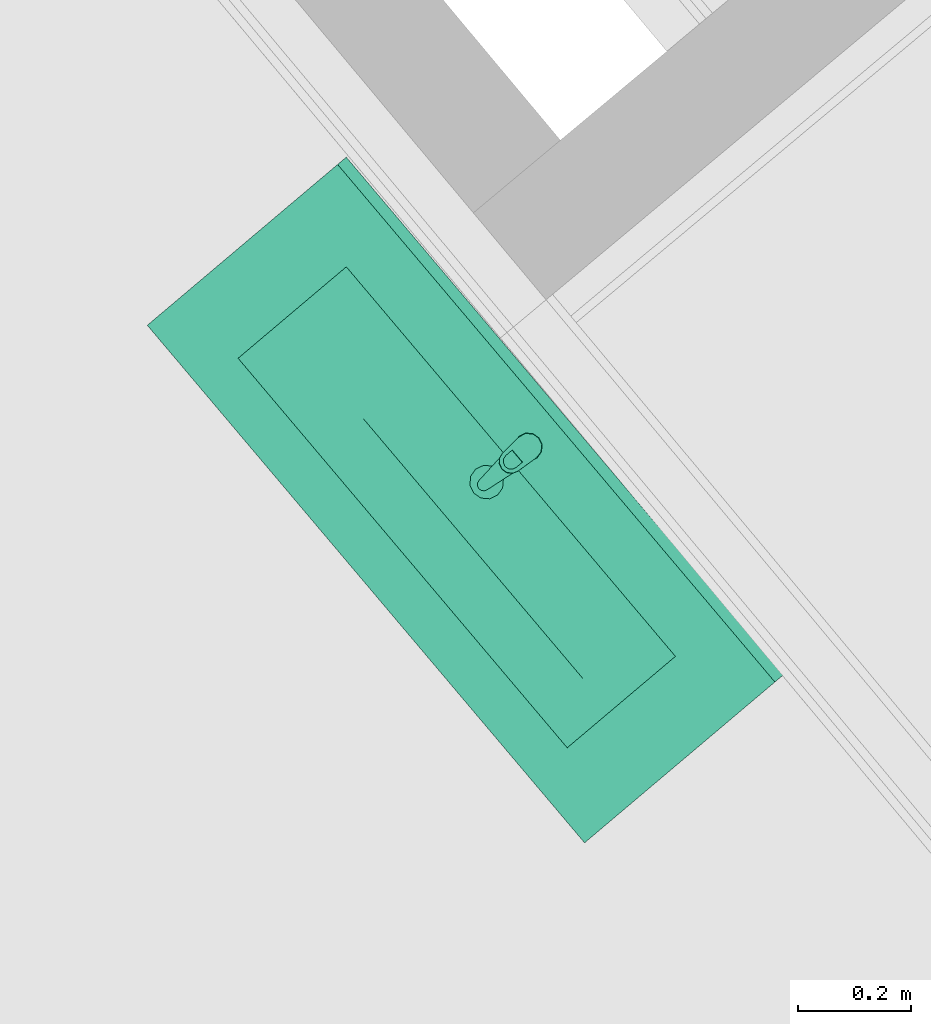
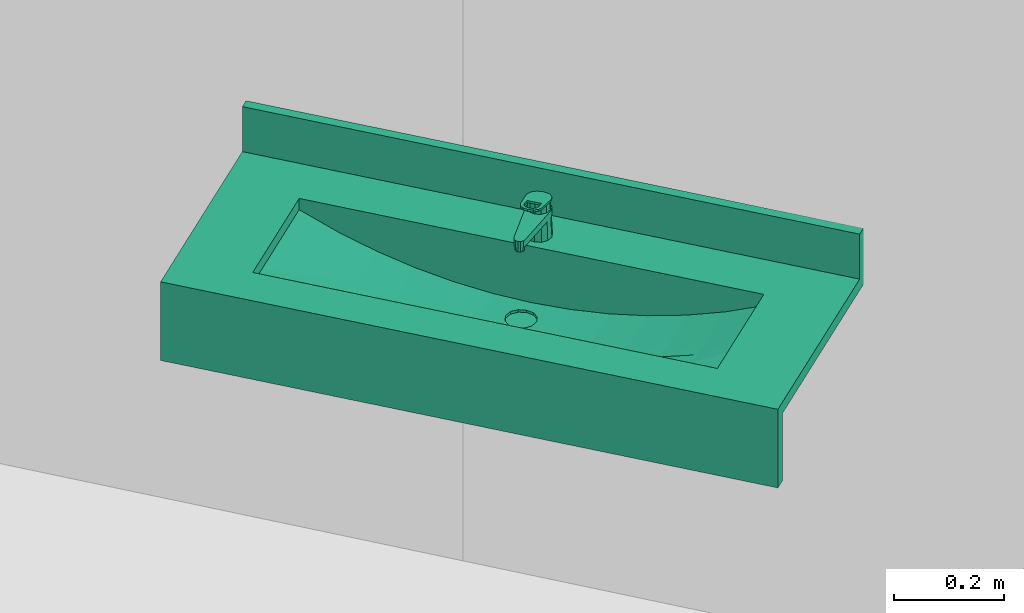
# One storey, part 68 of 75: 1 sanitary terminal.
"""IFC4 building model written with IfcOpenShell, lengths in metres."""

from ifc_helpers import new_model, entity, si_unit, converted_unit, derived_unit, direction, frame, origin_with_axes, place, context, subcontext, project, spatial, polygons, source, transform, mapped, type_object, element, save


model = new_model("IFC4")

# Units and contexts
model_context = context("Model", 3, precision=1e-05, world=origin_with_axes(), true_north=direction((0.0, 1.0)))
body_context = subcontext(model_context, "Body", "Model", "MODEL_VIEW")
ifc_project = project(units=[si_unit("LENGTHUNIT", "METRE"), si_unit("AREAUNIT", "SQUARE_METRE"), si_unit("VOLUMEUNIT", "CUBIC_METRE"), converted_unit("PLANEANGLEUNIT", "DEGREE", entity("IfcPlaneAngleMeasure", 0.0174532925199), si_unit("PLANEANGLEUNIT", "RADIAN"), dimensions=[0, 0, 0, 0, 0, 0, 0]), converted_unit("TIMEUNIT", "Year", entity("IfcTimeMeasure", 31556926.0), si_unit("TIMEUNIT", "SECOND"), dimensions=[0, 0, 1, 0, 0, 0, 0]), si_unit("MASSUNIT", "GRAM", prefix="KILO"), si_unit("THERMODYNAMICTEMPERATUREUNIT", "DEGREE_CELSIUS"), si_unit("LUMINOUSINTENSITYUNIT", "LUMEN"), si_unit("ENERGYUNIT", "JOULE", prefix="MEGA"), derived_unit("THERMALCONDUCTANCEUNIT", [(si_unit("POWERUNIT", "WATT"), 1), (si_unit("LENGTHUNIT", "METRE"), -1), (si_unit("THERMODYNAMICTEMPERATUREUNIT", "KELVIN"), -1)]), derived_unit("SPECIFICHEATCAPACITYUNIT", [(si_unit("ENERGYUNIT", "JOULE"), 1), (si_unit("MASSUNIT", "GRAM", prefix="KILO"), -1), (si_unit("THERMODYNAMICTEMPERATUREUNIT", "KELVIN"), -1)]), derived_unit("MASSDENSITYUNIT", [(si_unit("MASSUNIT", "GRAM", prefix="KILO"), 1), (si_unit("VOLUMEUNIT", "CUBIC_METRE"), -1)])], contexts=[model_context])

# Site, building, storey, space
site_placement = place(None, frame((-0.00153261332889, -0.00661245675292, 0.0), z_axis=(0.0, 0.0, 1.0), x_axis=(1.0, 0.0, 0.0)))
site = spatial("IfcSite", under=ifc_project, at=site_placement, Name="Gelände", CompositionType="ELEMENT")
building_placement = place(site_placement, origin_with_axes())
building = spatial("IfcBuilding", under=site, at=building_placement, Name="Gebäude", CompositionType="ELEMENT")
storey_placement = place(building_placement, frame((0.0, 0.0, -0.22), z_axis=(0.0, 0.0, 1.0), x_axis=(1.0, 0.0, 0.0)))
storey = spatial("IfcBuildingStorey", under=building, at=storey_placement, Name="EG", CompositionType="ELEMENT", Elevation=-0.22)
space_placement = place(storey_placement, frame((-1.0947353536, 21.1038328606, 0.22), z_axis=(0.0, 0.0, 1.0), x_axis=(0.641209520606, -0.767365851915, 0.0)))
space = spatial("IfcSpace", under=storey, at=space_placement, CompositionType="ELEMENT", PredefinedType="NOTDEFINED")

# Sanitary terminal
sanitary_terminal_type = type_object("IfcSanitaryTerminalType", Name="Waschbecken mehrfach 26", PredefinedType="NOTDEFINED")
shared_shape = source(origin_with_axes(), body_context, "Body", "Tessellation", [
    polygons([(-0.597906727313, 0.0, 0.875), (0.597906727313, 0.0, 0.875), (0.597906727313, -0.459810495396, 0.875), (-0.597906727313, -0.459810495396, 0.875), (-0.45, -0.374905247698, 0.875), (0.45, -0.374905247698, 0.875), (0.45, -0.124905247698, 0.875), (-0.45, -0.124905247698, 0.875), (-0.597906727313, 0.0, 0.9), (0.597906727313, 0.0, 0.9), (0.597906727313, -0.459810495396, 0.9), (-0.597906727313, -0.459810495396, 0.9), (-0.45, -0.374905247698, 0.9), (0.45, -0.374905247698, 0.9), (0.45, -0.124905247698, 0.9), (-0.45, -0.124905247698, 0.9)], [[[1, 2, 3, 4], [5, 6, 7, 8]], [[1, 9, 10, 2]], [[2, 10, 11, 3]], [[3, 11, 12, 4]], [[4, 12, 9, 1]], [[13, 14, 6, 5]], [[14, 15, 7, 6]], [[15, 16, 8, 7]], [[16, 13, 5, 8]], [[11, 10, 9, 12], [13, 16, 15, 14]]], closed=True),
    polygons([(-0.597906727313, -0.02, 0.9), (0.597906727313, -0.02, 0.9), (0.597906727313, -0.02, 1.0), (-0.597906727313, -0.02, 1.0), (-0.597906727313, 0.0, 0.9), (0.597906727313, 0.0, 0.9), (0.597906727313, 0.0, 1.0), (-0.597906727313, 0.0, 1.0)], [[[1, 2, 3, 4]], [[1, 5, 6, 2]], [[2, 6, 7, 3]], [[4, 3, 7, 8]], [[5, 1, 4, 8]], [[6, 5, 8, 7]]], closed=True),
    polygons([(-0.597906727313, -0.459810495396, 0.725), (0.597906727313, -0.459810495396, 0.725), (0.597906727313, -0.459810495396, 0.875), (-0.597906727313, -0.459810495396, 0.875), (-0.597906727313, -0.434810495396, 0.725), (0.597906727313, -0.434810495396, 0.725), (0.597906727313, -0.434810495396, 0.875), (-0.597906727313, -0.434810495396, 0.875)], [[[1, 2, 3, 4]], [[1, 5, 6, 2]], [[2, 6, 7, 3]], [[4, 3, 7, 8]], [[5, 1, 4, 8]], [[6, 5, 8, 7]]], closed=True),
    polygons([(0.0, -0.210896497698, 0.775), (-0.015, -0.206877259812, 0.775530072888), (-0.0259807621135, -0.195896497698, 0.775918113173), (-0.03, -0.180896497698, 0.776060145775), (-0.0283946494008, -0.174905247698, 0.776003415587), (-0.075, -0.174905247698, 0.777650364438), (-0.075, -0.224905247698, 0.777650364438), (0.0, -0.224905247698, 0.775), (-0.015, -0.154915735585, 0.775530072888), (0.0, -0.150896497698, 0.775), (0.0, -0.124905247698, 0.775), (-0.075, -0.124905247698, 0.777650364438), (-0.0259807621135, -0.165896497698, 0.775918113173), (-0.15, -0.174905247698, 0.785641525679), (-0.15, -0.224905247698, 0.785641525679), (-0.075, -0.274905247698, 0.787304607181), (0.075, -0.174905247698, 0.777650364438), (0.0283946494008, -0.174905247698, 0.776003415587), (0.03, -0.180896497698, 0.776060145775), (0.0259807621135, -0.195896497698, 0.775918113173), (0.015, -0.206877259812, 0.775530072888), (0.075, -0.224905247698, 0.777650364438), (0.015, -0.154915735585, 0.775530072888), (0.0259807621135, -0.165896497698, 0.775918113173), (0.075, -0.124905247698, 0.777650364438), (0.225, -0.124905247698, 0.799096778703), (0.3, -0.124905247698, 0.818232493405), (0.375, -0.124905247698, 0.843376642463), (0.45, -0.124905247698, 0.875), (-0.45, -0.124905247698, 0.875), (-0.375, -0.124905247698, 0.843376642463), (-0.3, -0.124905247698, 0.818232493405), (-0.225, -0.124905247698, 0.799096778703), (-0.15, -0.124905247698, 0.785641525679), (0.15, -0.124905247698, 0.785641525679), (-0.225, -0.174905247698, 0.799096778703), (-0.225, -0.224905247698, 0.799096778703), (-0.15, -0.274905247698, 0.794561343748), (0.0, -0.274905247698, 0.784895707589), (0.15, -0.224905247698, 0.785641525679), (0.15, -0.174905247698, 0.785641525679), (0.3, -0.174905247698, 0.818232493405), (0.225, -0.174905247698, 0.799096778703), (0.375, -0.174905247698, 0.843376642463), (0.45, -0.174905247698, 0.875), (-0.375, -0.174905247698, 0.843376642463), (-0.45, -0.174905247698, 0.875), (-0.3, -0.174905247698, 0.818232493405), (-0.3, -0.224905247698, 0.818232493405), (-0.225, -0.274905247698, 0.80675793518), (-0.075, -0.324905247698, 0.828130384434), (-0.15, -0.324905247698, 0.832107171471), (0.075, -0.274905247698, 0.787304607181), (0.225, -0.224905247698, 0.799096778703), (0.3, -0.224905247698, 0.818232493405), (0.375, -0.224905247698, 0.843376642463), (0.45, -0.224905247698, 0.875), (0.45, -0.274905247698, 0.875), (0.45, -0.324905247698, 0.875), (0.45, -0.374905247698, 0.875), (-0.45, -0.274905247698, 0.875), (-0.45, -0.224905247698, 0.875), (-0.45, -0.374905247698, 0.875), (-0.45, -0.324905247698, 0.875), (-0.375, -0.224905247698, 0.843376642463), (-0.3, -0.274905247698, 0.824054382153), (-0.225, -0.324905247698, 0.838751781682), (0.0, -0.324905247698, 0.826806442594), (0.15, -0.274905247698, 0.794561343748), (0.225, -0.274905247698, 0.80675793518), (0.3, -0.274905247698, 0.824054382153), (0.375, -0.274905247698, 0.846689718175), (0.375, -0.324905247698, 0.860156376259), (0.375, -0.374905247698, 0.875), (-0.375, -0.324905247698, 0.860156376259), (-0.375, -0.274905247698, 0.846689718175), (-0.3, -0.324905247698, 0.848089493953), (-0.075, -0.374905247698, 0.875), (-0.15, -0.374905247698, 0.875), (-0.225, -0.374905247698, 0.875), (0.075, -0.324905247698, 0.828130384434), (-0.3, -0.374905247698, 0.875), (-0.375, -0.374905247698, 0.875), (0.3, -0.374905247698, 0.875), (0.225, -0.374905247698, 0.875), (0.15, -0.374905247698, 0.875), (0.075, -0.374905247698, 0.875), (0.0, -0.374905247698, 0.875), (0.15, -0.324905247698, 0.832107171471), (0.225, -0.324905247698, 0.838751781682), (0.3, -0.324905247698, 0.848089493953)], [[[1, 2, 3, 4, 5, 6, 7, 8]], [[9, 10, 11, 12, 6, 5, 13]], [[7, 6, 14, 15]], [[16, 8, 7]], [[17, 18, 19, 20, 21, 1, 8, 22]], [[10, 23, 24, 18, 17, 25, 11]], [[26, 27, 28, 29, 30, 31, 32, 33, 34, 12, 11, 25, 35]], [[6, 12, 34, 14]], [[15, 14, 36, 37]], [[38, 7, 15]], [[16, 39, 8]], [[38, 16, 7]], [[39, 22, 8]], [[40, 41, 17, 22]], [[41, 35, 25, 17]], [[42, 27, 26, 43]], [[44, 28, 27, 42]], [[45, 29, 28, 44]], [[46, 31, 30, 47]], [[48, 32, 31, 46]], [[36, 33, 32, 48]], [[14, 34, 33, 36]], [[43, 26, 35, 41]], [[37, 36, 48, 49]], [[50, 15, 37]], [[50, 38, 15]], [[51, 39, 16]], [[52, 16, 38]], [[39, 53, 22]], [[54, 43, 41, 40]], [[53, 40, 22]], [[55, 42, 43, 54]], [[56, 44, 42, 55]], [[57, 58, 59, 60, 29, 45]], [[57, 45, 44, 56]], [[61, 62, 47, 30, 63, 64]], [[65, 46, 47, 62]], [[49, 48, 46, 65]], [[66, 37, 49]], [[66, 50, 37]], [[67, 38, 50]], [[51, 68, 39]], [[52, 51, 16]], [[67, 52, 38]], [[68, 53, 39]], [[69, 54, 40]], [[53, 69, 40]], [[70, 55, 54]], [[71, 56, 55]], [[72, 58, 57]], [[73, 59, 58]], [[74, 60, 59]], [[72, 57, 56]], [[61, 65, 62]], [[63, 75, 64]], [[64, 76, 61]], [[76, 49, 65]], [[76, 66, 49]], [[77, 50, 66]], [[77, 67, 50]], [[78, 68, 51]], [[79, 51, 52]], [[80, 52, 67]], [[68, 81, 53]], [[69, 70, 54]], [[81, 69, 53]], [[70, 71, 55]], [[71, 72, 56]], [[73, 58, 72]], [[74, 59, 73]], [[80, 82, 83, 63, 60, 74, 84, 85, 86, 87, 88, 78, 79]], [[61, 76, 65]], [[63, 83, 75]], [[64, 75, 76]], [[75, 66, 76]], [[75, 77, 66]], [[82, 67, 77]], [[78, 88, 68]], [[79, 78, 51]], [[80, 79, 52]], [[82, 80, 67]], [[88, 81, 68]], [[89, 70, 69]], [[81, 89, 69]], [[90, 71, 70]], [[91, 72, 71]], [[91, 73, 72]], [[84, 74, 73]], [[83, 82, 77]], [[85, 84, 91]], [[86, 85, 90]], [[87, 86, 89]], [[88, 87, 81]], [[83, 77, 75]], [[89, 90, 70]], [[87, 89, 81]], [[90, 91, 71]], [[84, 73, 91]], [[85, 91, 90]], [[86, 90, 89]]], closed=False),
    polygons([(0.03, -0.180896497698, 0.776060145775), (0.0259807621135, -0.195896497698, 0.775918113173), (0.0259807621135, -0.195896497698, 0.77), (0.03, -0.180896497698, 0.77), (0.015, -0.206877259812, 0.775530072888), (0.015, -0.206877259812, 0.77), (0.0, -0.150896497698, 0.77), (0.015, -0.154915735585, 0.77), (0.0259807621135, -0.165896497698, 0.77), (0.0, -0.210896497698, 0.77), (-0.015, -0.206877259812, 0.77), (-0.0259807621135, -0.195896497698, 0.77), (-0.03, -0.180896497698, 0.77), (-0.0259807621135, -0.165896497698, 0.77), (-0.015, -0.154915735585, 0.77), (0.0259807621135, -0.165896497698, 0.775918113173), (0.0, -0.210896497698, 0.775), (0.0, -0.150896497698, 0.775), (0.015, -0.154915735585, 0.775530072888), (-0.015, -0.206877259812, 0.775530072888), (-0.0259807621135, -0.195896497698, 0.775918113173), (-0.03, -0.180896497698, 0.776060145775), (-0.0259807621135, -0.165896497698, 0.775918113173), (-0.015, -0.154915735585, 0.775530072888)], [[[1, 2, 3, 4]], [[2, 5, 6, 3]], [[7, 8, 9, 4, 3, 6, 10, 11, 12, 13, 14, 15]], [[16, 1, 4, 9]], [[5, 17, 10, 6]], [[18, 19, 8, 7]], [[19, 16, 9, 8]], [[17, 20, 11, 10]], [[20, 21, 12, 11]], [[21, 22, 13, 12]], [[22, 23, 14, 13]], [[23, 24, 15, 14]], [[24, 18, 7, 15]]], closed=False),
    polygons([(0.0125, -0.0632546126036, 0.9), (0.0, -0.0599052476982, 0.9), (0.0, -0.0637033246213, 0.975961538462), (0.0105873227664, -0.0665674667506, 0.976507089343), (0.0216506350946, -0.0724052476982, 0.9), (0.025, -0.0849052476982, 0.9), (0.0216506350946, -0.0974052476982, 0.9), (0.0125, -0.106555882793, 0.9), (0.0, -0.109905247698, 0.9), (-0.0125, -0.106555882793, 0.9), (-0.0216506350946, -0.0974052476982, 0.9), (-0.025, -0.0849052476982, 0.9), (-0.0216506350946, -0.0724052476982, 0.9), (-0.0125, -0.0632546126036, 0.9), (-0.0105873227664, -0.0665674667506, 0.976507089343), (-0.0182735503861, -0.0743550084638, 0.977990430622), (-0.021, -0.0849052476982, 0.98), (-0.0181003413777, -0.095355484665, 0.981990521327), (-0.0104141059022, -0.102943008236, 0.983435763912), (0.0, -0.105707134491, 0.983962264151), (0.0104141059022, -0.102943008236, 0.983435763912), (0.0181003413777, -0.095355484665, 0.981990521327), (0.021, -0.0849052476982, 0.98), (0.0182735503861, -0.0743550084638, 0.977990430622)], [[[1, 2, 3, 4]], [[1, 5, 6, 7, 8, 9, 10, 11, 12, 13, 14, 2]], [[2, 14, 15, 3]], [[4, 3, 15, 16, 17, 18, 19, 20, 21, 22, 23, 24]], [[5, 1, 4, 24]], [[6, 5, 24, 23]], [[7, 6, 23, 22]], [[8, 7, 22, 21]], [[9, 8, 21, 20]], [[10, 9, 20, 19]], [[11, 10, 19, 18]], [[12, 11, 18, 17]], [[13, 12, 17, 16]], [[14, 13, 16, 15]]], closed=True),
    polygons([(0.009, -0.187905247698, 0.935), (0.00779422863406, -0.183405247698, 0.935), (0.00779422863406, -0.183405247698, 0.945), (0.009, -0.187905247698, 0.945), (0.00779422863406, -0.192405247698, 0.935), (0.0045, -0.195699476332, 0.935), (0.0, -0.196905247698, 0.935), (-0.0045, -0.195699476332, 0.935), (-0.00779422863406, -0.192405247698, 0.935), (-0.009, -0.187905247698, 0.935), (-0.00779422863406, -0.183405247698, 0.935), (-0.0045, -0.180111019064, 0.935), (0.0, -0.178905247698, 0.935), (0.0045, -0.180111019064, 0.935), (0.0045, -0.180111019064, 0.945), (0.0, -0.178905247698, 0.945), (-0.0045, -0.180111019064, 0.945), (-0.00779422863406, -0.183405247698, 0.945), (-0.009, -0.187905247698, 0.945), (-0.00779422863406, -0.192405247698, 0.945), (-0.0045, -0.195699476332, 0.945), (0.0, -0.196905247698, 0.945), (0.0045, -0.195699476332, 0.945), (0.00779422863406, -0.192405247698, 0.945)], [[[1, 2, 3, 4]], [[1, 5, 6, 7, 8, 9, 10, 11, 12, 13, 14, 2]], [[2, 14, 15, 3]], [[4, 3, 15, 16, 17, 18, 19, 20, 21, 22, 23, 24]], [[5, 1, 4, 24]], [[6, 5, 24, 23]], [[7, 6, 23, 22]], [[8, 7, 22, 21]], [[9, 8, 21, 20]], [[10, 9, 20, 19]], [[11, 10, 19, 18]], [[12, 11, 18, 17]], [[13, 12, 17, 16]], [[14, 13, 16, 15]]], closed=True),
    polygons([(-0.0128717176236, -0.0646489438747, 0.96), (-0.021727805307, -0.0747120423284, 0.96), (-0.0238054, -0.0879551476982, 0.96), (-0.010911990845, -0.189293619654, 0.96), (-0.00902887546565, -0.194188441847, 0.96), (-0.00509332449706, -0.197654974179, 0.96), (3.62679860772e-08, -0.198905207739, 0.96), (0.00509338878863, -0.197654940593, 0.96), (0.00902891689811, -0.194188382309, 0.96), (0.010912, -0.189293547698, 0.96), (0.0238053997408, -0.0879551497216, 0.96), (0.0217278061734, -0.0747120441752, 0.96), (0.0128717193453, -0.0646489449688, 0.96), (1.01998896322e-09, -0.0609052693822, 0.96), (0.011, -0.0658526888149, 0.96), (0.0190525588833, -0.0739052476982, 0.96), (0.022, -0.0849052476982, 0.96), (0.0190525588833, -0.0959052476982, 0.96), (0.011, -0.103957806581, 0.96), (0.0, -0.106905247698, 0.96), (-0.011, -0.103957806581, 0.96), (-0.0190525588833, -0.0959052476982, 0.96), (-0.022, -0.0849052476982, 0.96), (-0.0190525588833, -0.0739052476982, 0.96), (-0.011, -0.0658526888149, 0.96), (0.0, -0.0629052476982, 0.96), (-0.021727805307, -0.0747120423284, 0.945), (-0.0128717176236, -0.0646489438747, 0.945), (-0.0238054, -0.0879551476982, 0.945), (-0.010911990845, -0.189293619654, 0.945), (-0.00902887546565, -0.194188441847, 0.945), (-0.00509332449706, -0.197654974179, 0.945), (3.62679860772e-08, -0.198905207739, 0.945), (0.00509338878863, -0.197654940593, 0.945), (0.00902891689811, -0.194188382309, 0.945), (0.010912, -0.189293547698, 0.945), (0.0238053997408, -0.0879551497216, 0.945), (0.0217278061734, -0.0747120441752, 0.945), (0.0128717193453, -0.0646489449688, 0.945), (1.01998896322e-09, -0.0609052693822, 0.945), (0.011375, -0.0652031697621, 0.945), (0.0197020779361, -0.0735302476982, 0.945), (0.02275, -0.0849052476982, 0.945), (0.0197020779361, -0.0962802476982, 0.945), (0.011375, -0.104607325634, 0.945), (0.0, -0.107655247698, 0.945), (-0.011375, -0.104607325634, 0.945), (-0.0197020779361, -0.0962802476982, 0.945), (-0.02275, -0.0849052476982, 0.945), (-0.0197020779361, -0.0735302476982, 0.945), (-0.011375, -0.0652031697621, 0.945), (0.0, -0.0621552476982, 0.945)], [[[1, 2, 3, 4, 5, 6, 7, 8, 9, 10, 11, 12, 13, 14], [15, 16, 17, 18, 19, 20, 21, 22, 23, 24, 25, 26]], [[27, 2, 1, 28]], [[29, 3, 2, 27]], [[30, 4, 3, 29]], [[31, 5, 4, 30]], [[32, 6, 5, 31]], [[33, 7, 6, 32]], [[34, 8, 7, 33]], [[35, 9, 8, 34]], [[36, 10, 9, 35]], [[37, 11, 10, 36]], [[38, 12, 11, 37]], [[39, 13, 12, 38]], [[40, 14, 13, 39]], [[28, 1, 14, 40]], [[41, 42, 16, 15]], [[42, 43, 17, 16]], [[43, 44, 18, 17]], [[44, 45, 19, 18]], [[45, 46, 20, 19]], [[21, 20, 46, 47]], [[22, 21, 47, 48]], [[23, 22, 48, 49]], [[24, 23, 49, 50]], [[25, 24, 50, 51]], [[51, 52, 26, 25]], [[52, 41, 15, 26]], [[33, 32, 31, 30, 29, 27, 28, 40, 39, 38, 37, 36, 35, 34], [45, 44, 43, 42, 41, 52, 51, 50, 49, 48, 47, 46]]], closed=True),
    polygons([(0.023893, -0.0865978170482, 0.980322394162), (0.0212964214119, -0.0741305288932, 0.977947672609), (0.0212964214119, -0.0733820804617, 0.981877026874), (0.023893, -0.0858493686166, 0.984251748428), (0.0209459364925, -0.126741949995, 0.987968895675), (0.0176631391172, -0.13641961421, 0.989812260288), (0.0100614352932, -0.14336899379, 0.991135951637), (-4.42652908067e-07, -0.145890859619, 0.991616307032), (-0.0100622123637, -0.143368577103, 0.991135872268), (-0.0176636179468, -0.136418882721, 0.989812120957), (-0.020946, -0.126741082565, 0.987968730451), (-0.023893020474, -0.0865975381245, 0.980322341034), (-0.0212962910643, -0.0741302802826, 0.977947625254), (-0.0124716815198, -0.0648140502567, 0.976173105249), (1.42337785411e-07, -0.0613732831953, 0.975517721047), (0.0124719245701, -0.0648141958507, 0.976173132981), (0.014, -0.110446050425, 0.984864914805), (-0.014, -0.110446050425, 0.984864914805), (-0.014, -0.125261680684, 0.987686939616), (-0.012124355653, -0.132138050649, 0.988996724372), (-0.007, -0.137171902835, 0.989955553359), (0.0, -0.139014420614, 0.990306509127), (0.007, -0.137171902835, 0.989955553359), (0.012124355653, -0.132138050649, 0.988996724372), (0.014, -0.125261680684, 0.987686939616), (0.0124719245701, -0.0640657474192, 0.980102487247), (1.42337785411e-07, -0.0606248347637, 0.979447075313), (-0.0124716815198, -0.0640656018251, 0.980102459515), (-0.0212962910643, -0.073381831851, 0.98187697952), (-0.023893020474, -0.085849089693, 0.984251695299), (-0.020946, -0.125992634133, 0.991898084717), (-0.0176636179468, -0.13567043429, 0.993741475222), (-0.0100622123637, -0.142620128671, 0.995065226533), (-4.42652908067e-07, -0.145142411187, 0.995545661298), (0.0100614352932, -0.142620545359, 0.995065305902), (0.0176631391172, -0.135671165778, 0.993741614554), (0.0209459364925, -0.125993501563, 0.991898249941), (0.014, -0.109697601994, 0.988794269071), (0.014, -0.124513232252, 0.991616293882), (0.012124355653, -0.131389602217, 0.992926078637), (0.007, -0.136423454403, 0.993884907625), (0.0, -0.138265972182, 0.994235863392), (-0.007, -0.136423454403, 0.993884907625), (-0.012124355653, -0.131389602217, 0.992926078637), (-0.014, -0.124513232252, 0.991616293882), (-0.014, -0.109697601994, 0.988794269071)], [[[1, 2, 3, 4]], [[1, 5, 6, 7, 8, 9, 10, 11, 12, 13, 14, 15, 16, 2], [17, 18, 19, 20, 21, 22, 23, 24, 25]], [[2, 16, 26, 3]], [[4, 3, 26, 27, 28, 29, 30, 31, 32, 33, 34, 35, 36, 37], [38, 39, 40, 41, 42, 43, 44, 45, 46]], [[5, 1, 4, 37]], [[6, 5, 37, 36]], [[7, 6, 36, 35]], [[8, 7, 35, 34]], [[9, 8, 34, 33]], [[10, 9, 33, 32]], [[11, 10, 32, 31]], [[12, 11, 31, 30]], [[13, 12, 30, 29]], [[14, 13, 29, 28]], [[15, 14, 28, 27]], [[16, 15, 27, 26]], [[18, 17, 38, 46]], [[19, 18, 46, 45]], [[20, 19, 45, 44]], [[21, 20, 44, 43]], [[22, 21, 43, 42]], [[23, 22, 42, 41]], [[24, 23, 41, 40]], [[25, 24, 40, 39]], [[17, 25, 39, 38]]], closed=True),
])
sanitary_terminal_placement = place(space_placement, frame((2.08975978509, 1.87960678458, -0.075), z_axis=(0.0, 0.0, 1.0), x_axis=(0.999985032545, 0.00547126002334, 0.0)))
element("IfcSanitaryTerminal", 1, at=sanitary_terminal_placement, inside=space, type_object=sanitary_terminal_type, Name="Objekt-0009", PredefinedType="NOTDEFINED", context=body_context, shape_type="MappedRepresentation", body=[
    mapped(shared_shape, transform((0.0, 0.0, 0.0))),
])

save(model, "model.ifc")
